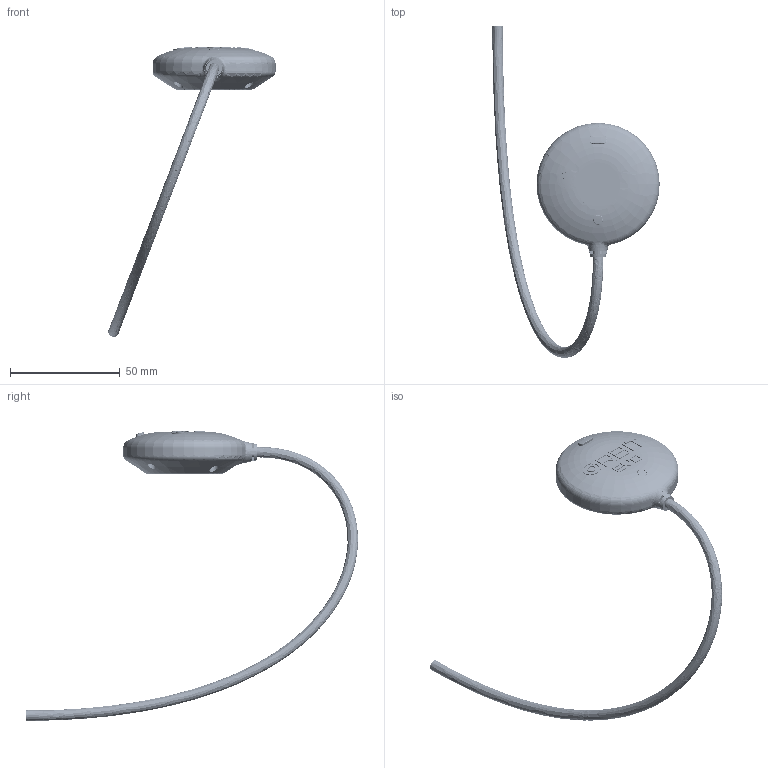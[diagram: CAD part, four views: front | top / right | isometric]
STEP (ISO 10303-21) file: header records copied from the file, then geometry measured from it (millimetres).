
FILE_DESCRIPTION(/* description */ ('STEP AP242 Edition 2','CAx-IF Rec.Pracs.---Representation and Presentation of Product Manufacturing Information (PMI)---4.0---2014-10-13','CAx-IF Rec.Pracs.---3D Tessellated Geometry---0.4---2014-09-14','2;1','CAx-IF Rec.Pracs.---User Defined Attributes---1.5---2016-08-15'),/* implementation_level */ '2;1');
FILE_NAME(/* name */ '69e7140c65a29cda614fe1ee',/* time_stamp */ '2026-04-21T06:07:12Z',/* author */ (''),/* organization */ (''),/* preprocessor_version */ 'ST-DEVELOPER v20',/* originating_system */ 'ONSHAPE BY PTC INC, 1.213',/* authorisation */ ' ');
FILE_SCHEMA (('AP242_MANAGED_MODEL_BASED_3D_ENGINEERING_MIM_LF { 1 0 10303 442 3 1 4 }'));
Length unit declared in the file: metre
Products named in the file (205): Orbit-EVO-CAN-Enclosure-Assembly-R1; M2 Thread Insert; ORBIT_EVO_CAN; M2 x 0.4 x 8 Screw; Bottom LED Cover-Orbit-EVO-CAN-Enclosure-R1; Button-Orbit-EVO-CAN-Enclosure-R1; Wire Holder-Orbit-EVO-Enclosure; Top-Orbit-EVO-CAN-Enclosure-R1; Wire-Orbit-EVO-Enclosure; Bottom-Orbit-EVO-CAN-Enclosure-R1
Assembly tree (213 placements, depth 2):
  Orbit-EVO-CAN-Enclosure-Assembly-R1
    M2 Thread Insert  x7
    ORBIT_EVO_CAN
    ORBIT_EVO_CAN
    ORBIT_EVO_CAN
    ORBIT_EVO_CAN
    ORBIT_EVO_CAN
    ORBIT_EVO_CAN
    ORBIT_EVO_CAN
    ORBIT_EVO_CAN
    ORBIT_EVO_CAN
    ORBIT_EVO_CAN
    ORBIT_EVO_CAN
    ORBIT_EVO_CAN
    ORBIT_EVO_CAN
    ORBIT_EVO_CAN
    ORBIT_EVO_CAN
    ORBIT_EVO_CAN
    M2 x 0.4 x 8 Screw  x4
    ORBIT_EVO_CAN
    ORBIT_EVO_CAN
    ORBIT_EVO_CAN
    ORBIT_EVO_CAN
    ORBIT_EVO_CAN
    ORBIT_EVO_CAN
    ORBIT_EVO_CAN
    ORBIT_EVO_CAN
    ORBIT_EVO_CAN
    ORBIT_EVO_CAN
    ORBIT_EVO_CAN
    ORBIT_EVO_CAN
    ORBIT_EVO_CAN
    ORBIT_EVO_CAN
    ORBIT_EVO_CAN
    ORBIT_EVO_CAN
    ORBIT_EVO_CAN
    ORBIT_EVO_CAN
    ORBIT_EVO_CAN
    ORBIT_EVO_CAN
    Bottom LED Cover-Orbit-EVO-CAN-Enclosure-R1
    ORBIT_EVO_CAN
    ORBIT_EVO_CAN
    ORBIT_EVO_CAN
    ORBIT_EVO_CAN
    ORBIT_EVO_CAN
    ORBIT_EVO_CAN
    ORBIT_EVO_CAN
    ORBIT_EVO_CAN
    ORBIT_EVO_CAN
    ORBIT_EVO_CAN
    ORBIT_EVO_CAN
    ORBIT_EVO_CAN
    ORBIT_EVO_CAN
    ORBIT_EVO_CAN
    ORBIT_EVO_CAN
    ORBIT_EVO_CAN
    ORBIT_EVO_CAN
    ORBIT_EVO_CAN
    ORBIT_EVO_CAN
    ORBIT_EVO_CAN
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Bounding box: 76.09 x 151.01 x 131.79 mm (x, y, z)
Volume: 20254.1 mm3; surface area: 31275.3 mm2
Topology: 213 solids, 213 shells, 5991 faces, 16069 edges, 10597 vertices
Faces by surface type: plane 3534, cylinder 1823, bspline 277, torus 211, cone 78, sphere 68
Full cylindrical faces by diameter (mm): 0.03 x44, 0.038 x1, 0.11 x1, 0.156 x1, 0.227 x1, 0.35 x2, 0.4 x1, 0.5 x1, 0.7 x2, 0.801 x2, 0.9 x1, 0.95 x2, 1.1 x1, 1.146 x1, 1.2 x3, 1.25 x1, 1.7 x3, 2.2 x4, 2.3 x4, 2.6 x1, 2.9 x7, 3 x1, 3.5 x11, 3.9 x1, 3.95 x1, 4 x4, 4.2 x1, 4.45 x1, 4.8 x2, 5.9 x4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
Entity records: 163071 total; most frequent: CARTESIAN_POINT 40007, ORIENTED_EDGE 24488, DIRECTION 24315, EDGE_CURVE 12244, LINE 8257, VECTOR 8257, VERTEX_POINT 8035, AXIS2_PLACEMENT_3D 8029
